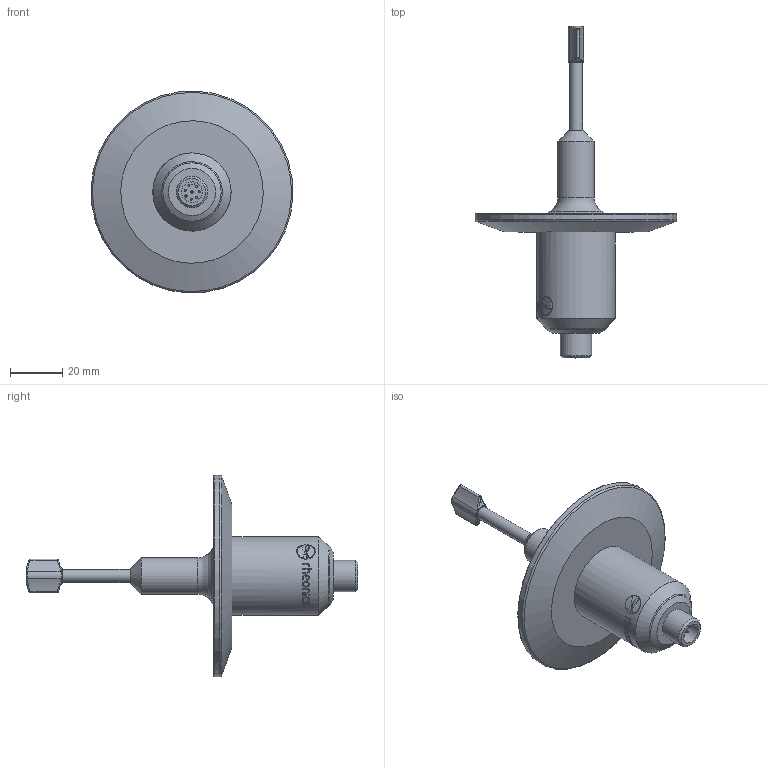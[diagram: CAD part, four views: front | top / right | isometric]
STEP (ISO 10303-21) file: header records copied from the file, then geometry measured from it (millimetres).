
FILE_DESCRIPTION(/* description */ ('Unknown'),/* implementation_level */ '2;1');
FILE_NAME(/* name */ 'SRD-HS-X3-25T',/* time_stamp */ '2023-12-12T16:06:38-05:00',/* author */ ('Unknown'),/* organization */ ('Unknown'),/* preprocessor_version */ 'ST-DEVELOPER v16.7',/* originating_system */ 'Solid Edge',/* authorisation */ 'Unknown');
FILE_SCHEMA (('CONFIG_CONTROL_DESIGN'));
Length unit declared in the file: millimetre
Products named in the file (1): SRD-HS-X3-25T
Bounding box: 77.45 x 127.35 x 77.45 mm (x, y, z)
Volume: 59986.9 mm3; surface area: 16631.8 mm2
Topology: 1 solids, 1 shells, 206 faces, 517 edges, 326 vertices
Faces by surface type: bspline 93, cylinder 43, plane 36, cone 14, torus 12, sphere 8
Full cylindrical faces by diameter (mm): 0.8 x8, 5.019 x1, 8 x1, 12 x1, 13.9 x1, 30 x1, 77.5 x1
Entity records: 10765 total; most frequent: CARTESIAN_POINT 5327, ORIENTED_EDGE 902, DIRECTION 571, EDGE_CURVE 451, VERTEX_POINT 308, EDGE_LOOP 267, FACE_BOUND 267, AXIS2_PLACEMENT_3D 218
